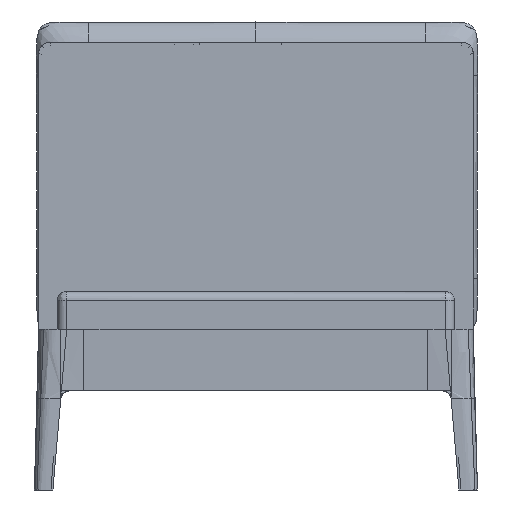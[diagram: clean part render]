
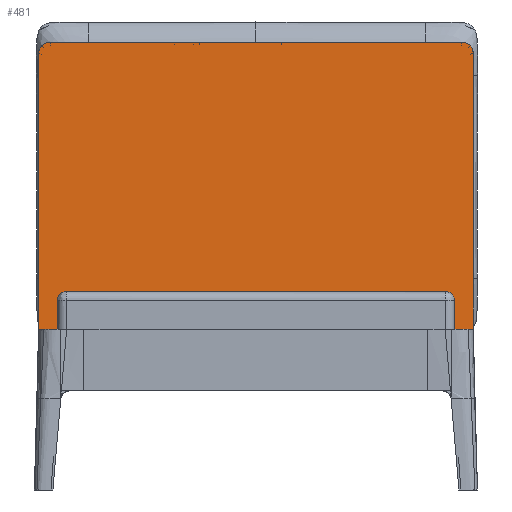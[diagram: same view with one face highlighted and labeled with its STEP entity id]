
A CAD part, front view. The second image highlights one B-rep face of the part: STEP entity #481.
In plain terms, the highlighted planar face has unit normal (0, -1, 0).
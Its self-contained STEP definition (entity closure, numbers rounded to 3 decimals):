
#481=ADVANCED_FACE('',(#1018),#7580,.T.);
#1018=FACE_OUTER_BOUND('',#1557,.T.);
#1557=EDGE_LOOP('',(#2879,#2880,#2881,#2882,#2883,#2884));
#2879=ORIENTED_EDGE('',*,*,#4775,.T.);
#2880=ORIENTED_EDGE('',*,*,#4728,.T.);
#2881=ORIENTED_EDGE('',*,*,#4731,.T.);
#2882=ORIENTED_EDGE('',*,*,#4773,.T.);
#2883=ORIENTED_EDGE('',*,*,#4760,.T.);
#2884=ORIENTED_EDGE('',*,*,#4756,.T.);
#4728=EDGE_CURVE('',#6930,#6932,#5544,.T.);
#4731=EDGE_CURVE('',#6932,#6933,#5547,.T.);
#4756=EDGE_CURVE('',#6951,#6950,#5558,.T.);
#4760=EDGE_CURVE('',#6952,#6951,#5562,.T.);
#4773=EDGE_CURVE('',#6933,#6952,#6007,.T.);
#4775=EDGE_CURVE('',#6950,#6930,#6009,.T.);
#5544=(
BOUNDED_CURVE()
B_SPLINE_CURVE(2,(#18255,#18256,#18257),.UNSPECIFIED.,.F.,.F.)
B_SPLINE_CURVE_WITH_KNOTS((3,3),(-10101.08,-9476.08),
 .UNSPECIFIED.)
CURVE()
GEOMETRIC_REPRESENTATION_ITEM()
RATIONAL_B_SPLINE_CURVE((1.,1.,1.))
REPRESENTATION_ITEM('')
);
#5547=(
BOUNDED_CURVE()
B_SPLINE_CURVE(2,(#18263,#18264,#18265),.UNSPECIFIED.,.F.,.F.)
B_SPLINE_CURVE_WITH_KNOTS((3,3),(-9476.08,-9436.81),
 .UNSPECIFIED.)
CURVE()
GEOMETRIC_REPRESENTATION_ITEM()
RATIONAL_B_SPLINE_CURVE((1.,0.707,1.))
REPRESENTATION_ITEM('')
);
#5558=(
BOUNDED_CURVE()
B_SPLINE_CURVE(2,(#18351,#18352,#18353),.UNSPECIFIED.,.F.,.F.)
B_SPLINE_CURVE_WITH_KNOTS((3,3),(-12612.08,-11987.08),
 .UNSPECIFIED.)
CURVE()
GEOMETRIC_REPRESENTATION_ITEM()
RATIONAL_B_SPLINE_CURVE((1.,1.,1.))
REPRESENTATION_ITEM('')
);
#5562=(
BOUNDED_CURVE()
B_SPLINE_CURVE(2,(#18361,#18362,#18363),.UNSPECIFIED.,.F.,.F.)
B_SPLINE_CURVE_WITH_KNOTS((3,3),(-7600.81,-7561.54),
 .UNSPECIFIED.)
CURVE()
GEOMETRIC_REPRESENTATION_ITEM()
RATIONAL_B_SPLINE_CURVE((1.,0.707,1.))
REPRESENTATION_ITEM('')
);
#6007=B_SPLINE_CURVE_WITH_KNOTS('',1,(#18444,#18445),.UNSPECIFIED.,.F.,
 .F.,(2,2),(0.,936.),.UNSPECIFIED.);
#6009=B_SPLINE_CURVE_WITH_KNOTS('',1,(#18448,#18449),.UNSPECIFIED.,.F.,
 .F.,(2,2),(0.,986.),.UNSPECIFIED.);
#6930=VERTEX_POINT('',#18145);
#6932=VERTEX_POINT('',#18147);
#6933=VERTEX_POINT('',#18148);
#6950=VERTEX_POINT('',#18165);
#6951=VERTEX_POINT('',#18166);
#6952=VERTEX_POINT('',#18167);
#7580=PLANE('',#8003);
#8003=AXIS2_PLACEMENT_3D('',#18128,#8358,$);
#8358=DIRECTION('',(0.,-1.,0.));
#18128=CARTESIAN_POINT('',(536.276,614.836,1080.));
#18145=CARTESIAN_POINT('',(492.764,614.836,365.));
#18147=CARTESIAN_POINT('',(492.764,614.836,990.));
#18148=CARTESIAN_POINT('',(467.764,614.836,1015.));
#18165=CARTESIAN_POINT('',(-493.236,614.836,365.));
#18166=CARTESIAN_POINT('',(-493.236,614.836,990.));
#18167=CARTESIAN_POINT('',(-468.236,614.836,1015.));
#18255=CARTESIAN_POINT('',(492.764,614.836,365.));
#18256=CARTESIAN_POINT('',(492.764,614.836,677.5));
#18257=CARTESIAN_POINT('',(492.764,614.836,990.));
#18263=CARTESIAN_POINT('',(492.764,614.836,990.));
#18264=CARTESIAN_POINT('',(492.764,614.836,1015.));
#18265=CARTESIAN_POINT('',(467.764,614.836,1015.));
#18351=CARTESIAN_POINT('',(-493.236,614.836,990.));
#18352=CARTESIAN_POINT('',(-493.236,614.836,677.5));
#18353=CARTESIAN_POINT('',(-493.236,614.836,365.));
#18361=CARTESIAN_POINT('',(-468.236,614.836,1015.));
#18362=CARTESIAN_POINT('',(-493.236,614.836,1015.));
#18363=CARTESIAN_POINT('',(-493.236,614.836,990.));
#18444=CARTESIAN_POINT('',(467.764,614.836,1015.));
#18445=CARTESIAN_POINT('',(-468.236,614.836,1015.));
#18448=CARTESIAN_POINT('',(-493.236,614.836,365.));
#18449=CARTESIAN_POINT('',(492.764,614.836,365.));
